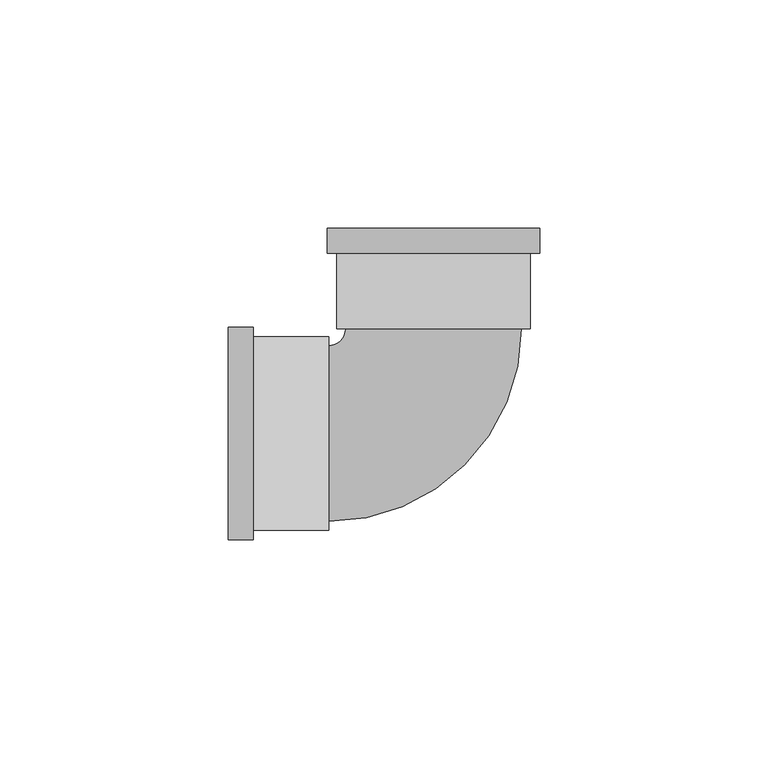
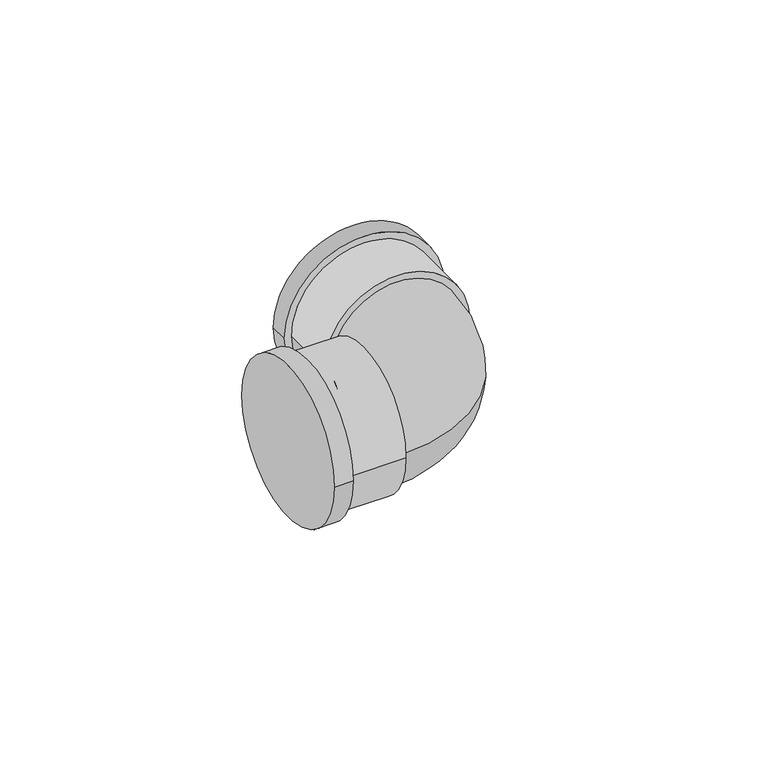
"""IFC4 building model written with IfcOpenShell, lengths in millimetres: pipe fitting geometry, Cotovelo - PVC - CW : Padrão."""

from ifc_helpers import new_model, si_unit, point, frame, origin, place, context, project, spatial, circle_curve, ellipse_curve, trimmed, source, transform, mapped, element, save
from ifc_brep_helpers import plane_surface, cylinder_surface, revolved_surface, advanced_brep


def pipe_fitting_b4c8926b(model_context):
    return source(origin(), model_context, "Body", "AdvancedBrep", [
        advanced_brep(
        [(-45.000466, -23.2925, 0.0), (-45.000466, 23.2925, 0.0), (-39.500466, -23.2925, 0.0), (-39.500466, 23.2925, 0.0), (-39.500466, -21.175, 0.0), (-39.500466, 21.175, 0.0), (-23.000466, 21.175, 0.0), (-23.000466, -21.175, 0.0), (-23.000466, -19.25, 0.0), (-23.000466, 19.25, 0.0), (-19.250466, 23.000076, 0.0), (19.249534, 23.0008561, 0.0), (21.174534, 23.0008951, 0.0), (-21.175466, 23.000037, 0.0), (-23.2934118, 44.9999941, 0.0), (23.2915882, 45.000938, 0.0), (21.1741996, 39.5008951, 0.0), (-21.1758004, 39.500037, 0.0), (-23.2933004, 39.4999941, 0.0), (23.2916996, 39.500938, 0.0)],
        [
            (0, 1, circle_curve(frame((-45.000466, 0.0, 0.0), z_axis=(-1.0, 0.0, 0.0), x_axis=(0.0, 1.0, 0.0)), 23.2925)),
            (1, 0, circle_curve(frame((-45.000466, 0.0, 0.0), z_axis=(-1.0, 0.0, 0.0), x_axis=(0.0, 1.0, 0.0)), 23.2925)),
            (2, 3, circle_curve(frame((-39.500466, 0.0, 0.0), z_axis=(1.0, 0.0, 0.0), x_axis=(0.0, 1.0, 0.0)), 23.2925)),
            (3, 2, circle_curve(frame((-39.500466, 0.0, 0.0), z_axis=(1.0, 0.0, 0.0), x_axis=(0.0, 1.0, 0.0)), 23.2925)),
            (4, 5, circle_curve(frame((-39.500466, 0.0, 0.0), z_axis=(-1.0, 0.0, 0.0), x_axis=(0.0, -1.0, 0.0)), 21.175)),
            (5, 4, circle_curve(frame((-39.500466, 0.0, 0.0), z_axis=(-1.0, 0.0, 0.0), x_axis=(0.0, -1.0, 0.0)), 21.175)),
            (0, 2),
            (3, 1),
            (6, 7, circle_curve(frame((-23.000466, 0.0, 0.0), z_axis=(1.0, 0.0, 0.0), x_axis=(0.0, -1.0, 0.0)), 21.175)),
            (7, 6, circle_curve(frame((-23.000466, 0.0, 0.0), z_axis=(1.0, 0.0, 0.0), x_axis=(0.0, -1.0, 0.0)), 21.175)),
            (8, 9, circle_curve(frame((-23.000466, 0.0, 0.0), z_axis=(-1.0, 0.0, 0.0), x_axis=(0.0, 1.0, 0.0)), 19.25)),
            (9, 8, circle_curve(frame((-23.000466, 0.0, 0.0), z_axis=(-1.0, 0.0, 0.0), x_axis=(0.0, 1.0, 0.0)), 19.25)),
            (6, 5),
            (4, 7),
            (10, 9, circle_curve(frame((-23.000466, 23.0, 0.0), z_axis=(0.0, 0.0, -1.0), x_axis=(0.0, -1.0, 0.0)), 3.75)),
            (8, 11, circle_curve(frame((-23.000466, 23.0, 0.0), z_axis=(0.0, 0.0, 1.0), x_axis=(0.0, -1.0, 0.0)), 42.25)),
            (11, 10, circle_curve(frame((-0.000466, 23.000466, 0.0), z_axis=(2.026203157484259e-05, -0.9999999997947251, 0.0), x_axis=(-0.9999999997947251, -2.026203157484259e-05, 0.0)), 19.25)),
            (10, 11, circle_curve(frame((-0.000466, 23.000466, 0.0), z_axis=(2.026203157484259e-05, -0.9999999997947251, 0.0), x_axis=(-0.9999999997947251, -2.026203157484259e-05, 0.0)), 19.25)),
            (12, 13, circle_curve(frame((-0.000466, 23.000466, 0.0), z_axis=(2.0262032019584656e-05, -0.9999999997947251, 0.0), x_axis=(-0.9999999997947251, -2.0262032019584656e-05, 0.0)), 21.175)),
            (13, 12, circle_curve(frame((-0.000466, 23.000466, 0.0), z_axis=(2.0262032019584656e-05, -0.9999999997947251, 0.0), x_axis=(-0.9999999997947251, -2.0262032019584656e-05, 0.0)), 21.175)),
            (14, 15, circle_curve(frame((-0.0009118, 45.000466, 0.0), z_axis=(-2.026203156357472e-05, 0.9999999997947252, 0.0), x_axis=(0.9999999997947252, 2.026203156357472e-05, 0.0)), 23.2925)),
            (15, 14, circle_curve(frame((-0.0009118, 45.000466, 0.0), z_axis=(-2.026203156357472e-05, 0.9999999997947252, 0.0), x_axis=(0.9999999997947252, 2.026203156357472e-05, 0.0)), 23.2925)),
            (12, 16),
            (16, 17, circle_curve(frame((-0.0008004, 39.500466, 0.0), z_axis=(2.0262032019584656e-05, -0.9999999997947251, 0.0), x_axis=(-0.9999999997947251, -2.0262032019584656e-05, 0.0)), 21.175)),
            (17, 13),
            (17, 16, circle_curve(frame((-0.0008004, 39.500466, 0.0), z_axis=(2.0262032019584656e-05, -0.9999999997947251, 0.0), x_axis=(-0.9999999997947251, -2.0262032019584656e-05, 0.0)), 21.175)),
            (18, 19, circle_curve(frame((-0.0008004, 39.500466, 0.0), z_axis=(2.026203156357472e-05, -0.9999999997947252, 0.0), x_axis=(0.9999999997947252, 2.026203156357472e-05, 0.0)), 23.2925)),
            (19, 18, circle_curve(frame((-0.0008004, 39.500466, 0.0), z_axis=(2.026203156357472e-05, -0.9999999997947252, 0.0), x_axis=(0.9999999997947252, 2.026203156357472e-05, 0.0)), 23.2925)),
            (14, 18),
            (19, 15),
        ],
        [
            plane_surface(frame((-45.000466, 0.0, 0.0), z_axis=(-1.0, 0.0, 0.0), x_axis=(0.0, 0.0, 1.0))),
            plane_surface(frame((-39.500466, 0.0, 0.0), z_axis=(1.0, 0.0, 0.0), x_axis=(0.0, 0.0, 1.0))),
            cylinder_surface(frame((-45.000466, 0.0, 0.0), z_axis=(-1.0, 0.0, 0.0), x_axis=(0.0, 1.0, 0.0)), 23.2925),
            plane_surface(frame((-23.000466, 0.0, 0.0), z_axis=(1.0, 0.0, 0.0), x_axis=(0.0, 0.0, 1.0))),
            cylinder_surface(frame((-23.000466, 0.0, 0.0), z_axis=(1.0, 0.0, 0.0), x_axis=(0.0, -1.0, 0.0)), 21.175),
            revolved_surface(trimmed(ellipse_curve(frame((-23.000466, 0.0, 0.0), z_axis=(-1.0, 0.0, 0.0), x_axis=(0.0, 1.0, 0.0)), 19.25, 19.25), [point((-23.000466, -19.25, 0.0))], [point((-23.000466, 19.25, 0.0))], True, "CARTESIAN"), (-23.000466, 23.0, 0.0), (0.0, 0.0, 1.0)),
            revolved_surface(trimmed(ellipse_curve(frame((-23.000466, 0.0, 0.0), z_axis=(-1.0, 0.0, 0.0), x_axis=(0.0, 1.0, 0.0)), 19.25, 19.25), [point((-23.000466, 19.25, 0.0))], [point((-23.000466, -19.25, 0.0))], True, "CARTESIAN"), (-23.000466, 23.0, 0.0), (0.0, 0.0, 1.0)),
            plane_surface(frame((-0.000466, 23.000466, 0.0), z_axis=(2.0262032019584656e-05, -0.9999999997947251, 0.0), x_axis=(0.0, 0.0, 1.0))),
            plane_surface(frame((-0.0009118, 45.000466, 0.0), z_axis=(-2.0262032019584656e-05, 0.9999999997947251, 0.0), x_axis=(0.0, 0.0, 1.0))),
            cylinder_surface(frame((-0.000466, 23.000466, 0.0), z_axis=(2.0262032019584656e-05, -0.9999999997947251, 0.0), x_axis=(-0.9999999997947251, -2.0262032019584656e-05, 0.0)), 21.175),
            plane_surface(frame((-0.0008004, 39.500466, 0.0), z_axis=(2.026203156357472e-05, -0.9999999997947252, 0.0), x_axis=(0.0, 0.0, 1.0))),
            cylinder_surface(frame((-0.0009118, 45.000466, 0.0), z_axis=(-2.026203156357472e-05, 0.9999999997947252, 0.0), x_axis=(0.9999999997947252, 2.026203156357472e-05, 0.0)), 23.2925),
        ],
        [
            (0, [[1, 2]]),
            (1, [[3, 4], [5, 6]]),
            (2, [[-1, 7, -4, 8]]),
            (2, [[-2, -8, -3, -7]]),
            (3, [[9, 10], [11, 12]]),
            (4, [[-9, 13, -5, 14]]),
            (4, [[-10, -14, -6, -13]]),
            (5, [[15, -11, 16, 17]]),
            (6, [[-15, 18, -16, -12]]),
            (7, [[19, 20], [-17, -18]]),
            (8, [[21, 22]]),
            (9, [[-19, 23, 24, 25]]),
            (9, [[-20, -25, 26, -23]]),
            (10, [[27, 28], [-24, -26]]),
            (11, [[-21, 29, -28, 30]]),
            (11, [[-22, -30, -27, -29]]),
        ],
    ),
    ])


if __name__ == "__main__":
    model = new_model("IFC4")
    model_context = context("Model", 3, world=origin())
    ifc_project = project(units=[si_unit("LENGTHUNIT", "METRE", prefix="MILLI")], contexts=[model_context])
    site = spatial("IfcSite", under=ifc_project)
    building = spatial("IfcBuilding", under=site)
    placement = place(None, origin())
    pipe_fitting_shape = pipe_fitting_b4c8926b(model_context)
    element("IfcPipeFitting", 1, ObjectType="Cotovelo - PVC - CW : Padrão", at=placement, inside=building, context=model_context, shape_type="MappedRepresentation", body=[
        mapped(pipe_fitting_shape, transform((0.0, 0.0, 0.0), x_axis=(1.0, 0.0, 0.0), y_axis=(0.0, 1.0, 0.0), z_axis=(0.0, 0.0, 1.0))),
    ])
    save(model, "model.ifc")
